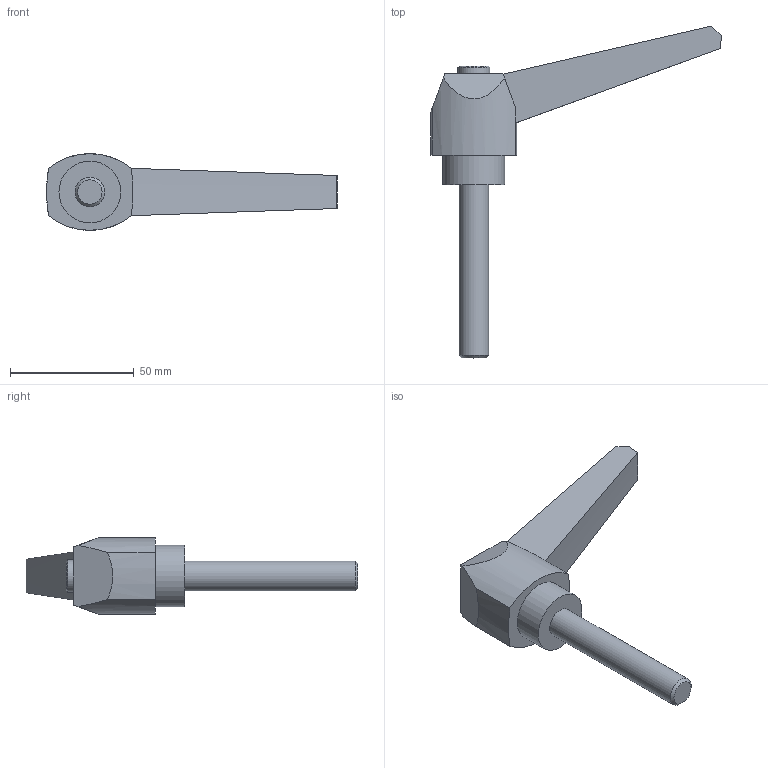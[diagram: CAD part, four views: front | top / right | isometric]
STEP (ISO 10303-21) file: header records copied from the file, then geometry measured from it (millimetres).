
FILE_DESCRIPTION( ( 'STEP AP203' ), '1' );
FILE_NAME( 'C:/Temp/Ganter_Step_05_03_2020/data/2_1/gn_500/gn_500_ms/Adjustable hand lever GN 500-100-M12-70-SW.stp', '2020-03-05T11:26:40', ( 'License CC BY-ND 4.0' ), ( 'CADENAS' ), ' ', 'PARTsolutions', ' ' );
FILE_SCHEMA( ( 'CONFIG_CONTROL_DESIGN' ) );
Length unit declared in the file: millimetre
Products named in the file (1): _Adjustable hand lever GN 500-100-M12-70-SW
Bounding box: 117.62 x 134.28 x 31 mm (x, y, z)
Volume: 64308.6 mm3; surface area: 14001.4 mm2
Topology: 1 solids, 1 shells, 24 faces, 56 edges, 37 vertices
Faces by surface type: plane 11, cylinder 7, cone 6
Full cylindrical faces by diameter (mm): 12 x1, 13 x1, 25 x1
Entity records: 709 total; most frequent: CARTESIAN_POINT 124, DIRECTION 118, ORIENTED_EDGE 100, EDGE_CURVE 50, AXIS2_PLACEMENT_3D 47, VERTEX_POINT 36, EDGE_LOOP 32, FACE_OUTER_BOUND 27
